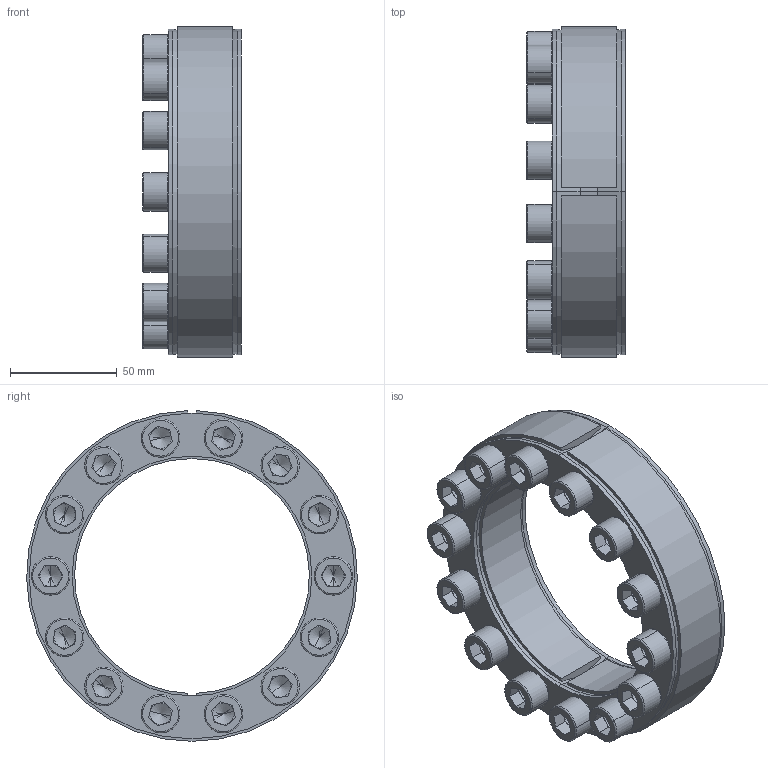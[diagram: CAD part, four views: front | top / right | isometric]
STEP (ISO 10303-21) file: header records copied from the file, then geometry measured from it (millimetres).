
FILE_DESCRIPTION (( 'STEP AP203' ), '1' );
FILE_NAME ('D1-110-155 Assy.STEP', '2017-10-11T07:40:19', ( 'MYCOM' ), ( '' ), 'SwSTEP 2.0', 'SolidWorks 2015', '' );
FILE_SCHEMA (( 'CONFIG_CONTROL_DESIGN' ));
Length unit declared in the file: millimetre
Products named in the file (1): D1-110-155 Assy
Bounding box: 46.2 x 154.99 x 154.97 mm (x, y, z)
Surface area: 94156 mm2 (no closed solid volume)
Topology: 0 solids, 32 shells, 386 faces, 948 edges, 570 vertices
Faces by surface type: plane 196, cylinder 95, torus 56, cone 39
Entity records: 11159 total; most frequent: DIRECTION 2116, CARTESIAN_POINT 1913, ORIENTED_EDGE 1677, EDGE_CURVE 920, AXIS2_PLACEMENT_3D 817, VERTEX_POINT 570, VECTOR 482, LINE 482
